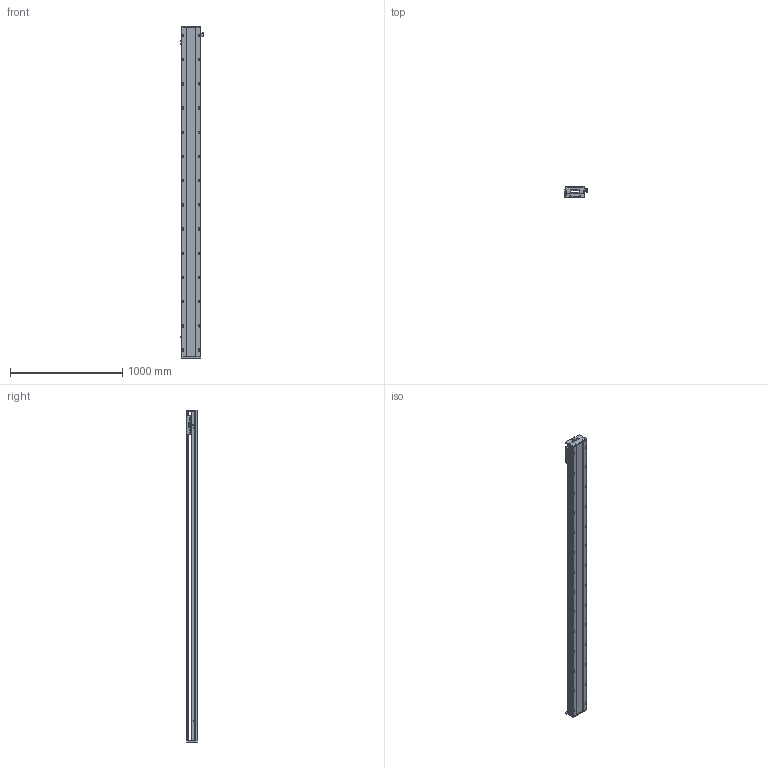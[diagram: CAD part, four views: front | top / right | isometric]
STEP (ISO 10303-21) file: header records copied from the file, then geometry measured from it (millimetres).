
FILE_DESCRIPTION (( 'STEP AP203' ), '1' );
FILE_NAME ('SKR17S-C1-S2694（简）.STEP', '2022-09-29T06:44:53', ( '' ), ( '' ), 'SwSTEP 2.0', 'SolidWorks 2018', '' );
FILE_SCHEMA (( 'CONFIG_CONTROL_DESIGN' ));
Length unit declared in the file: millimetre
Products named in the file (8): 棠掑假蚾輸; SKR17滑台-170L（简）; 感应片（SKR12S-14S-17S）; EE-SX672; SIKO棠掑; SKR17S-C1-S2694（简）; SKR17底座-C1-S2694（简); SKR17耜啣
Assembly tree (10 placements, depth 2):
  SKR17S-C1-S2694（简）
    SKR17底座-C1-S2694（简)
    SKR17滑台-170L（简）
    SIKO棠掑
    EE-SX672  x3
    SKR17耜啣  x2
    棠掑假蚾輸
    感应片（SKR12S-14S-17S）
Bounding box: 212.7 x 97 x 2964 mm (x, y, z)
Volume: 22490001.6 mm3; surface area: 2695277.3 mm2
Topology: 11 solids, 11 shells, 1473 faces, 4118 edges, 2647 vertices
Faces by surface type: cylinder 746, plane 579, cone 148
Entity records: 46982 total; most frequent: CARTESIAN_POINT 13337, ORIENTED_EDGE 7200, DIRECTION 6440, EDGE_CURVE 3600, VERTEX_POINT 2351, AXIS2_PLACEMENT_3D 2302, LINE 1836, VECTOR 1836
